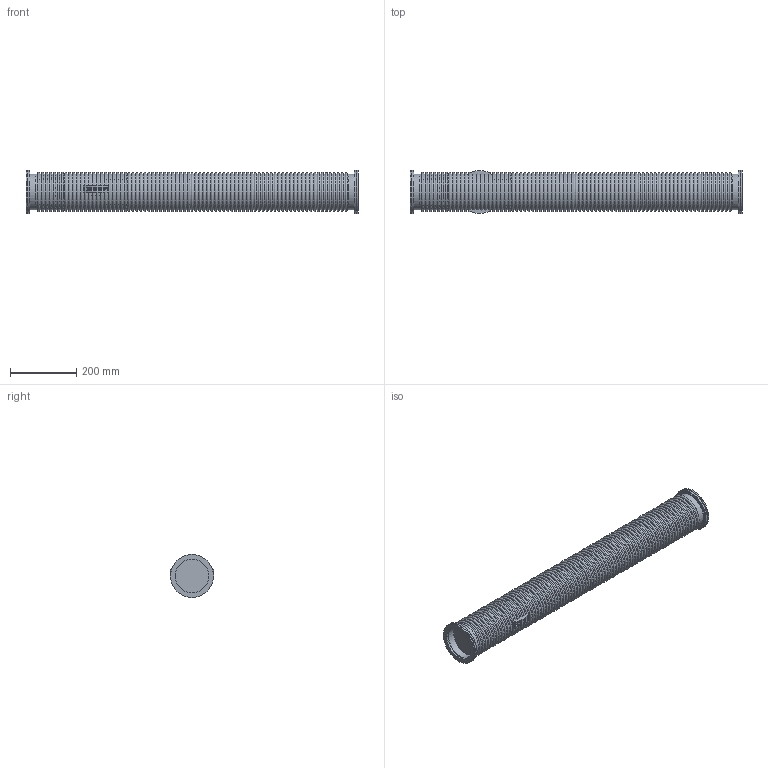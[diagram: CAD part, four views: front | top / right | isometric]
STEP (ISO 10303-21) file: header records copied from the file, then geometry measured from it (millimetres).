
FILE_DESCRIPTION( ( 'Unknown' ), '1' );
FILE_NAME( 'X:/Daten ( aktueller Bestand )/Projekte und Zeichnungen/Solid Edge/11 ISO-K Schläuche +FK/ISO-K-Wellschlauch, geglüht/6922.stp', 'Unknown', ( 'Unknown' ), ( 'Unknown' ), 'XStep 1.0', 'Unknown', ' ' );
FILE_SCHEMA( ( 'automotive_design' ) );
Length unit declared in the file: millimetre
Products named in the file (5): Assem1; Assem2; 6522-1; 6512; 6922-1
Bounding box: 1000 x 130 x 130 mm (x, y, z)
Surface area: 1365282 mm2
Topology: 10 solids, 10 shells, 390 faces, 748 edges, 390 vertices
Faces by surface type: cylinder 192, torus 162, plane 32, cone 4
Full cylindrical faces by diameter (mm): 102 x8, 108 x164, 108.5 x4, 115 x4, 125 x4, 130 x8
Entity records: 4944 total; most frequent: DIRECTION 722, CARTESIAN_POINT 538, AXIS2_PLACEMENT_3D 361, EDGE_LOOP 354, ORIENTED_EDGE 354, FACE_OUTER_BOUND 346, ADVANCED_FACE 178, EDGE_CURVE 177
